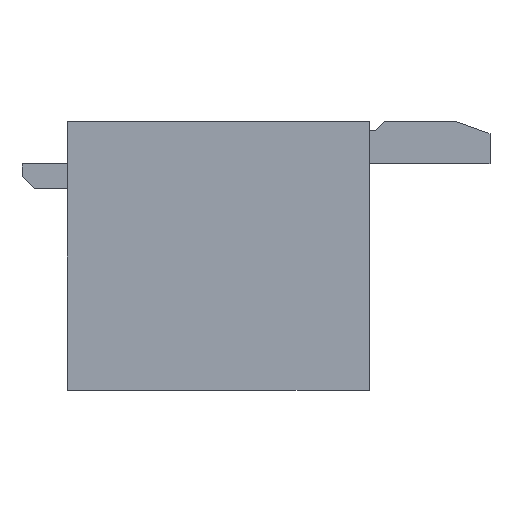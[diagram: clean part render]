
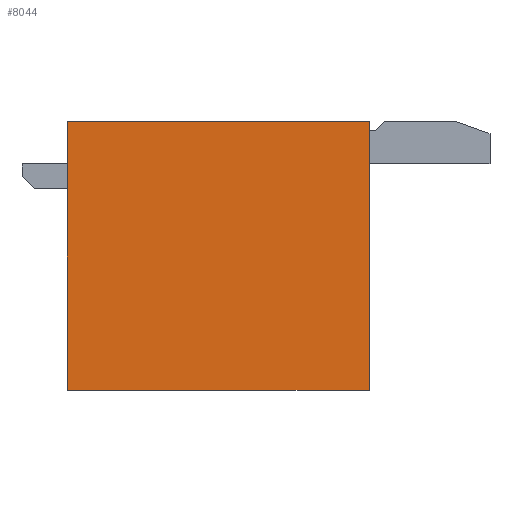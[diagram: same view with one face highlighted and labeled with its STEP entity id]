
A CAD part, left-side view. The second image highlights one B-rep face of the part: STEP entity #8044.
In plain terms, the highlighted planar face has unit normal (-1, 0, 0).
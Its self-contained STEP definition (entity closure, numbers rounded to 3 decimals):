
#45=DIRECTION('',(0.,-1.,0.));
#46=VECTOR('',#45,5.);
#47=CARTESIAN_POINT('',(-5.4,5.,0.));
#48=LINE('',#47,#46);
#383=DIRECTION('',(0.,0.,-1.));
#384=VECTOR('',#383,4.45);
#385=CARTESIAN_POINT('',(-5.4,5.,4.45));
#386=LINE('',#385,#384);
#2113=DIRECTION('',(0.,0.,1.));
#2114=VECTOR('',#2113,4.45);
#2115=CARTESIAN_POINT('',(-5.4,0.,0.));
#2116=LINE('',#2115,#2114);
#2315=DIRECTION('',(0.,1.,0.));
#2316=VECTOR('',#2315,5.);
#2317=CARTESIAN_POINT('',(-5.4,0.,4.45));
#2318=LINE('',#2317,#2316);
#7973=CARTESIAN_POINT('',(-5.4,5.,0.));
#7974=CARTESIAN_POINT('',(-5.4,0.,0.));
#7975=VERTEX_POINT('',#7973);
#7976=VERTEX_POINT('',#7974);
#7977=CARTESIAN_POINT('',(-5.4,5.,4.45));
#7978=VERTEX_POINT('',#7977);
#7979=CARTESIAN_POINT('',(-5.4,0.,4.45));
#7980=VERTEX_POINT('',#7979);
#8029=CARTESIAN_POINT('',(-5.4,0.,0.));
#8030=DIRECTION('',(1.,0.,0.));
#8031=DIRECTION('',(0.,0.,-1.));
#8032=AXIS2_PLACEMENT_3D('',#8029,#8030,#8031);
#8033=PLANE('',#8032);
#8035=ORIENTED_EDGE('',*,*,#8034,.F.);
#8037=ORIENTED_EDGE('',*,*,#8036,.F.);
#8039=ORIENTED_EDGE('',*,*,#8038,.F.);
#8041=ORIENTED_EDGE('',*,*,#8040,.F.);
#8042=EDGE_LOOP('',(#8035,#8037,#8039,#8041));
#8043=FACE_OUTER_BOUND('',#8042,.F.);
#8044=ADVANCED_FACE('',(#8043),#8033,.F.);
#8034=EDGE_CURVE('',#7975,#7976,#48,.T.);
#8036=EDGE_CURVE('',#7978,#7975,#386,.T.);
#8038=EDGE_CURVE('',#7980,#7978,#2318,.T.);
#8040=EDGE_CURVE('',#7976,#7980,#2116,.T.);
